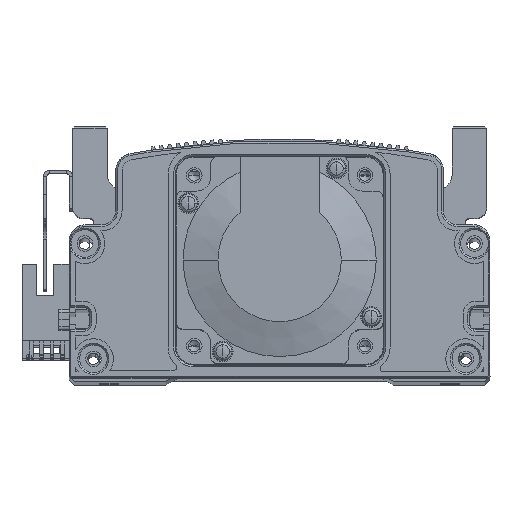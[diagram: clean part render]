
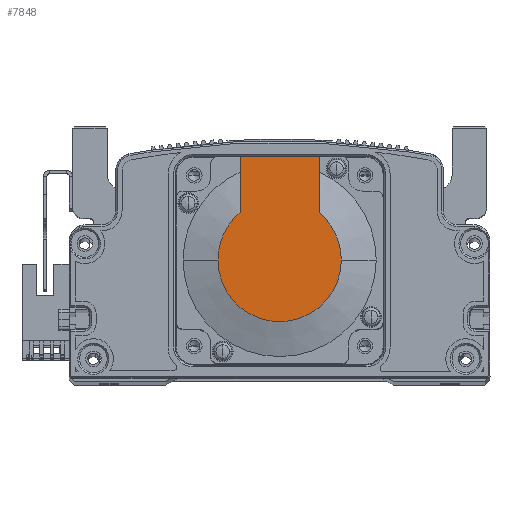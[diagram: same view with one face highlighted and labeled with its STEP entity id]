
A CAD part, top view. The second image highlights one B-rep face of the part: STEP entity #7848.
In plain terms, the highlighted planar face has unit normal (0, 0, 1) as drawn and (-1, 0, 0) by its records, which use the part's own axes.
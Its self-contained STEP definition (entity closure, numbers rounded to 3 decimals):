
#3442 = DIRECTION ( 'NONE',  ( -1., 0., 0. ) ) ;
#4187 = CARTESIAN_POINT ( 'NONE',  ( -118.5, 0., 11.45 ) ) ;
#6506 = CARTESIAN_POINT ( 'NONE',  ( -118.5, 0., -17.881 ) ) ;
#7705 = EDGE_CURVE ( 'NONE', #12719, #46123, #46874, .T. ) ;
#7848 = ADVANCED_FACE ( 'NONE', ( #60154 ), #59350, .T. ) ;
#8372 = CARTESIAN_POINT ( 'NONE',  ( -118.5, 0., 0. ) ) ;
#8690 = EDGE_CURVE ( 'NONE', #13616, #55957, #14312, .T. ) ;
#9574 = LINE ( 'NONE', #32589, #43713 ) ;
#9738 = ORIENTED_EDGE ( 'NONE', *, *, #8690, .F. ) ;
#9752 = DIRECTION ( 'NONE',  ( -1., 0., 0. ) ) ;
#10969 = ORIENTED_EDGE ( 'NONE', *, *, #13001, .T. ) ;
#11425 = DIRECTION ( 'NONE',  ( 0., 0., 1. ) ) ;
#11664 = AXIS2_PLACEMENT_3D ( 'NONE', #30469, #9752, #57632 ) ;
#11959 = CARTESIAN_POINT ( 'NONE',  ( -118.5, 30., -11.45 ) ) ;
#12719 = VERTEX_POINT ( 'NONE', #20053 ) ;
#13001 = EDGE_CURVE ( 'NONE', #64330, #12719, #53868, .T. ) ;
#13616 = VERTEX_POINT ( 'NONE', #42436 ) ;
#14312 = LINE ( 'NONE', #4187, #15170 ) ;
#15170 = VECTOR ( 'NONE', #30520, 1000. ) ;
#20053 = CARTESIAN_POINT ( 'NONE',  ( -118.5, 13.735, -11.45 ) ) ;
#21945 = DIRECTION ( 'NONE',  ( 0., 0., 1. ) ) ;
#22890 = AXIS2_PLACEMENT_3D ( 'NONE', #64662, #32410, #21945 ) ;
#26595 = DIRECTION ( 'NONE',  ( -1., 0., 0. ) ) ;
#26815 = CARTESIAN_POINT ( 'NONE',  ( -118.5, 0., 0. ) ) ;
#28858 = AXIS2_PLACEMENT_3D ( 'NONE', #8372, #3442, #45570 ) ;
#30469 = CARTESIAN_POINT ( 'NONE',  ( -118.5, 0., 0. ) ) ;
#30520 = DIRECTION ( 'NONE',  ( 0., -1., 0. ) ) ;
#31356 = EDGE_CURVE ( 'NONE', #65493, #55957, #51930, .T. ) ;
#31491 = DIRECTION ( 'NONE',  ( 0., 0., -1. ) ) ;
#31534 = EDGE_LOOP ( 'NONE', ( #10969, #63314, #53622, #63298, #9738, #57685 ) ) ;
#32066 = DIRECTION ( 'NONE',  ( 0., -1., 0. ) ) ;
#32410 = DIRECTION ( 'NONE',  ( -1., 0., 0. ) ) ;
#32589 = CARTESIAN_POINT ( 'NONE',  ( -118.5, 30., 25. ) ) ;
#37654 = CARTESIAN_POINT ( 'NONE',  ( -118.5, 13.735, 11.45 ) ) ;
#38034 = AXIS2_PLACEMENT_3D ( 'NONE', #26815, #26595, #31491 ) ;
#38046 = VECTOR ( 'NONE', #32066, 1000. ) ;
#42436 = CARTESIAN_POINT ( 'NONE',  ( -118.5, 30., 11.45 ) ) ;
#42479 = CARTESIAN_POINT ( 'NONE',  ( -118.5, -8.941, -11.45 ) ) ;
#43713 = VECTOR ( 'NONE', #11425, 1000. ) ;
#45570 = DIRECTION ( 'NONE',  ( 0., 0., -1. ) ) ;
#46123 = VERTEX_POINT ( 'NONE', #6506 ) ;
#46874 = CIRCLE ( 'NONE', #38034, 17.881 ) ;
#51930 = CIRCLE ( 'NONE', #11664, 17.881 ) ;
#53622 = ORIENTED_EDGE ( 'NONE', *, *, #59818, .T. ) ;
#53868 = LINE ( 'NONE', #42479, #38046 ) ;
#55957 = VERTEX_POINT ( 'NONE', #37654 ) ;
#57632 = DIRECTION ( 'NONE',  ( 0., 0., -1. ) ) ;
#57685 = ORIENTED_EDGE ( 'NONE', *, *, #64785, .F. ) ;
#59350 = PLANE ( 'NONE',  #22890 ) ;
#59818 = EDGE_CURVE ( 'NONE', #46123, #65493, #62496, .T. ) ;
#60154 = FACE_OUTER_BOUND ( 'NONE', #31534, .T. ) ;
#62496 = CIRCLE ( 'NONE', #28858, 17.881 ) ;
#63298 = ORIENTED_EDGE ( 'NONE', *, *, #31356, .T. ) ;
#63314 = ORIENTED_EDGE ( 'NONE', *, *, #7705, .T. ) ;
#64330 = VERTEX_POINT ( 'NONE', #11959 ) ;
#64662 = CARTESIAN_POINT ( 'NONE',  ( -118.5, -8.941, 0. ) ) ;
#64785 = EDGE_CURVE ( 'NONE', #64330, #13616, #9574, .T. ) ;
#65231 = CARTESIAN_POINT ( 'NONE',  ( -118.5, 0., 17.881 ) ) ;
#65493 = VERTEX_POINT ( 'NONE', #65231 ) ;
